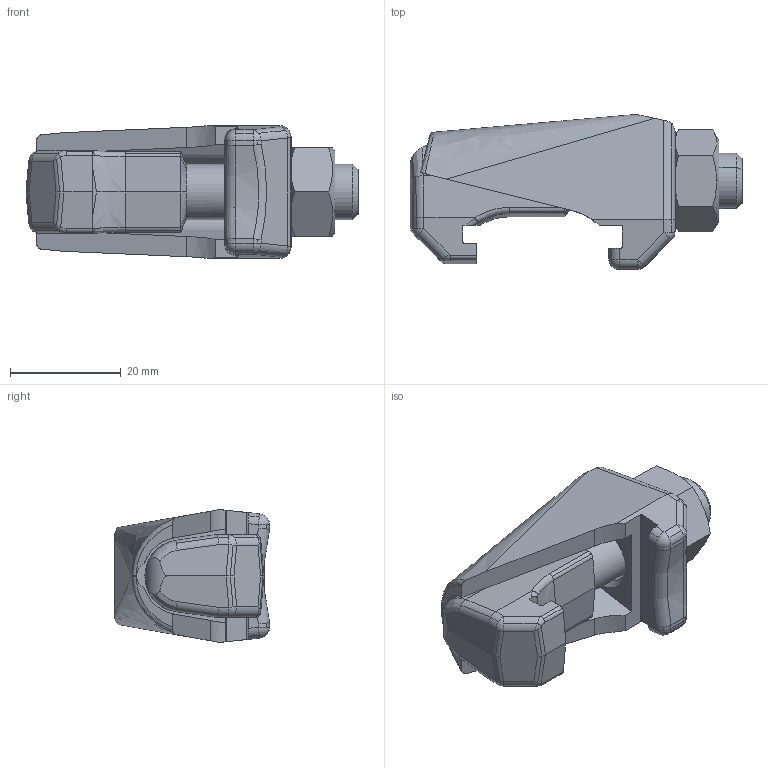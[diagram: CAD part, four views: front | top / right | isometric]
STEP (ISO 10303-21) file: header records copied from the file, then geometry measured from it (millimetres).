
FILE_DESCRIPTION((''),'2;1');
FILE_NAME('W:\212-225.stp','2004-01-08T13:14:14',('KAA'),(''),'Autodesk Inventor (R) 6.0','Autodesk Inventor (R) 6.0','');
FILE_SCHEMA(('CONFIG_CONTROL_DESIGN'));
Length unit declared in the file: millimetre
Products named in the file (1): 212-225
Bounding box: 60 x 28.02 x 24 mm (x, y, z)
Volume: 18273.2 mm3; surface area: 7879.7 mm2
Topology: 1 solids, 1 shells, 176 faces, 460 edges, 284 vertices
Faces by surface type: cylinder 82, plane 47, bspline 22, cone 14, sphere 8, torus 3
Entity records: 9216 total; most frequent: CARTESIAN_POINT 4930, ORIENTED_EDGE 908, DIRECTION 871, EDGE_CURVE 454, AXIS2_PLACEMENT_3D 341, VERTEX_POINT 284, VECTOR 189, LINE 189
